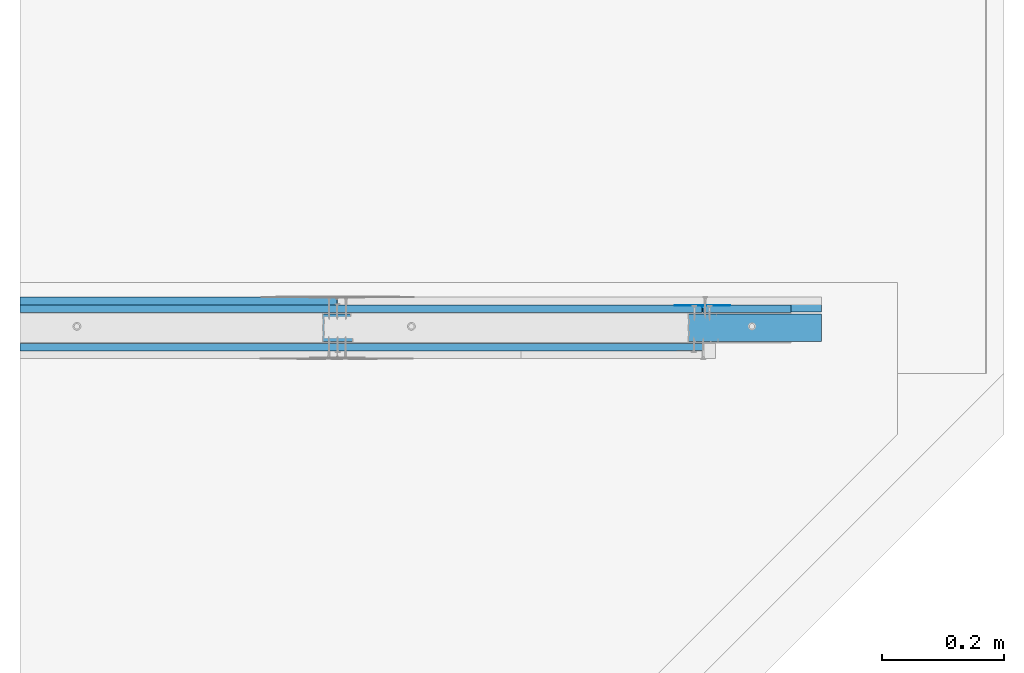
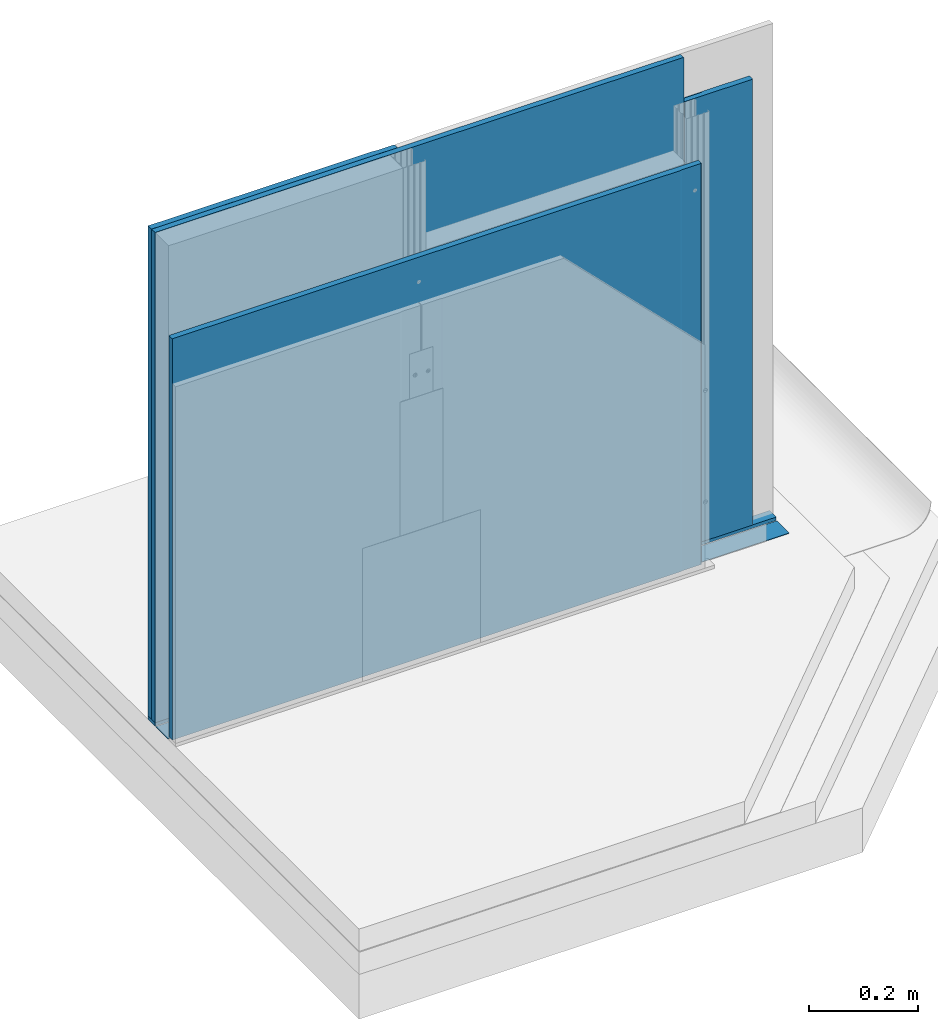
# One storey, part 2 of 36: 7 walls.
"""IFC2X3 building model written with IfcOpenShell, lengths in millimetres."""

from ifc_helpers import new_model, entity, si_unit, converted_unit, direction, frame, origin, origin_with_axes, place, context, project, spatial, faceted_brep, element, save


model = new_model("IFC2X3")

# Units and contexts
model_context = context("Model", 3, precision=1e-05, world=origin(), true_north=direction((0.0, 1.0, 0.0)))
ifc_project = project(units=[si_unit("LENGTHUNIT", "METRE", prefix="MILLI"), si_unit("AREAUNIT", "SQUARE_METRE"), si_unit("VOLUMEUNIT", "CUBIC_METRE"), converted_unit("PLANEANGLEUNIT", "DEGREE", entity("IfcPlaneAngleMeasure", 0.01745), si_unit("PLANEANGLEUNIT", "RADIAN"), dimensions=[0, 0, 0, 0, 0, 0, 0]), si_unit("SOLIDANGLEUNIT", "STERADIAN"), si_unit("MASSUNIT", "GRAM"), si_unit("TIMEUNIT", "SECOND"), si_unit("THERMODYNAMICTEMPERATUREUNIT", "DEGREE_CELSIUS"), si_unit("LUMINOUSINTENSITYUNIT", "LUMEN")], contexts=[model_context])

# Site, building, storey
site_placement = place(None, origin_with_axes())
site = spatial("IfcSite", under=ifc_project, at=site_placement, Name="Default Site", CompositionType="ELEMENT")
building_placement = place(site_placement, origin_with_axes())
building = spatial("IfcBuilding", under=site, at=building_placement, Name="Default Building", CompositionType="ELEMENT")
storey_placement = place(building_placement, origin_with_axes())
storey = spatial("IfcBuildingStorey", under=building, at=storey_placement, Name="Default Building Storey", CompositionType="ELEMENT", Elevation=0.0)

# Walls
wall_1_placement = place(storey_placement, frame((3984.303078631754, -1356.465798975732, 405.1766678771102), z_axis=(0.0, 0.0, 1.0), x_axis=(1.0, 0.0, 0.0)))
element("IfcWall", 1, at=wall_1_placement, inside=storey, Name="Dedykowana masa szpachlowa Rigips - konstrukcyjna", context=model_context, shape_type="Brep", body=[
    faceted_brep([(-737.4838396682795, 3387.669590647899, 706.8233321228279), (-737.4592163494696, 3387.356721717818, 706.8233321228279), (-737.4345930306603, 3387.669590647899, 706.8233321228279), (-737.3613293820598, 3387.974755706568, 706.8233321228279), (-737.2412293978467, 3388.264702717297, 706.8233321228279), (-737.0772503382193, 3388.532292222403, 706.8233321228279), (-736.8734299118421, 3388.770935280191, 706.8233321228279), (-736.6347868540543, 3388.974755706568, 706.8233321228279), (-736.3671973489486, 3389.138734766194, 706.8233321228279), (-736.0772503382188, 3389.258834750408, 706.8233321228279), (-735.7720852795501, 3389.332098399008, 706.8233321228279), (-735.4592163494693, 3389.356721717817, 706.8233321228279), (-692.4592163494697, 3389.356721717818, 706.8233321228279), (-691.4592163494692, 3390.556721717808, 706.8233321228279), (-782.4592163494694, 3390.556721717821, 706.8233321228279), (-782.4592163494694, 3389.356721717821, 706.8233321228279), (-739.4592163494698, 3389.356721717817, 706.8233321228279), (-739.146347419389, 3389.332098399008, 706.8233321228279), (-738.8411823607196, 3389.258834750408, 706.8233321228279), (-738.5512353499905, 3389.138734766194, 706.8233321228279), (-738.2836458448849, 3388.974755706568, 706.8233321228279), (-738.045002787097, 3388.770935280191, 706.8233321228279), (-737.8411823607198, 3388.532292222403, 706.8233321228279), (-737.6772033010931, 3388.264702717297, 706.8233321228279), (-737.5571033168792, 3387.974755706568, 706.8233321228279), (-691.4592163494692, 3390.556721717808, -293.178249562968), (-692.4592163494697, 3389.356721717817, -293.178249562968), (-735.4592163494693, 3389.356721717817, -293.178249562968), (-735.7720852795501, 3389.332098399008, -293.178249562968), (-736.0772503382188, 3389.258834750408, -293.178249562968), (-736.3671973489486, 3389.138734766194, -293.178249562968), (-736.6347868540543, 3388.974755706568, -293.178249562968), (-736.8734299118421, 3388.77093528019, -293.178249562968), (-737.0772503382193, 3388.532292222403, -293.178249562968), (-737.2412293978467, 3388.264702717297, -293.178249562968), (-737.3613293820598, 3387.974755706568, -293.178249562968), (-737.4345930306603, 3387.669590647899, -293.178249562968), (-737.4592163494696, 3387.356721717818, -293.178249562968), (-737.4838396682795, 3387.669590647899, -293.178249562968), (-737.5571033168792, 3387.974755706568, -293.178249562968), (-737.6772033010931, 3388.264702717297, -293.178249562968), (-737.8411823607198, 3388.532292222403, -293.178249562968), (-738.045002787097, 3388.77093528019, -293.178249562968), (-738.2836458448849, 3388.974755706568, -293.178249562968), (-738.5512353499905, 3389.138734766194, -293.178249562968), (-738.8411823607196, 3389.258834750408, -293.178249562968), (-739.146347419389, 3389.332098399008, -293.178249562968), (-739.4592163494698, 3389.356721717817, -293.178249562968), (-782.4592163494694, 3389.356721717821, -293.178249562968), (-782.4592163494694, 3390.556721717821, -293.178249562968)], [[[0, 1, 2, 3, 4, 5, 6, 7, 8, 9, 10, 11, 12, 13, 14, 15, 16, 17, 18, 19, 20, 21, 22, 23, 24]], [[25, 26, 27, 28, 29, 30, 31, 32, 33, 34, 35, 36, 37, 38, 39, 40, 41, 42, 43, 44, 45, 46, 47, 48, 49]], [[26, 12, 11, 27]], [[10, 9, 29, 28]], [[28, 27, 11, 10]], [[8, 30, 29, 9]], [[7, 6, 32, 31]], [[31, 30, 8, 7]], [[5, 4, 34, 33]], [[33, 32, 6, 5]], [[3, 35, 34, 4]], [[2, 1, 37, 36]], [[36, 35, 3, 2]], [[0, 24, 39, 38]], [[38, 37, 1, 0]], [[23, 40, 39, 24]], [[22, 21, 42, 41]], [[41, 40, 23, 22]], [[20, 19, 44, 43]], [[43, 42, 21, 20]], [[18, 45, 44, 19]], [[17, 16, 47, 46]], [[46, 45, 18, 17]], [[47, 16, 15, 48]], [[48, 15, 14, 49]], [[49, 14, 13, 25]], [[25, 13, 12, 26]]]),
])
wall_2_placement = place(storey_placement, frame((3247.843862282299, 2022.140922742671, 1389.777728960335), z_axis=(0.0, 0.0, 1.0), x_axis=(1.0, 0.0, 0.0)))
element("IfcWall", 2, at=wall_2_placement, inside=storey, Name="Płyta gipsowo-kartonowa RIGIPS PRO (4PRO™)", context=model_context, shape_type="Brep", body=[
    faceted_brep([(145.1967559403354, 12.49999999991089, -277.7777289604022), (145.1967559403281, -9.059988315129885e-11, -277.7777289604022), (145.1967559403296, -9.023892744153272e-11, -1277.779310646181), (145.1967559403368, 12.49999999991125, -1277.779310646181), (0.0, 0.0, -277.7777289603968), (44.99999999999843, 12.50000000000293, -277.7777289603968), (40.99999999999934, 11.50000000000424, -277.7777289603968), (0.9999999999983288, 11.5000000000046, -277.7777289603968), (0.7411809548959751, 11.46592582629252, -277.7777289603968), (0.4999999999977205, 11.3660254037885, -277.7777289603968), (0.2928932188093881, 11.20710678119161, -277.7777289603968), (0.1339745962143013, 11.00000000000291, -277.7777289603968), (0.03407417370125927, 10.7588190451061, -277.7777289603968), (-2.887645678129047e-12, 10.50000000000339, -277.7777289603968), (44.99999999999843, 12.50000000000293, -1277.779310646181), (40.99999999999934, 11.50000000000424, -1277.779310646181), (0.9999999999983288, 11.5000000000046, -1277.779310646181), (0.7411809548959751, 11.46592582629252, -1277.779310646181), (0.4999999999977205, 11.3660254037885, -1277.779310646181), (0.2928932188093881, 11.20710678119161, -1277.779310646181), (0.1339745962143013, 11.00000000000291, -1277.779310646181), (0.03407417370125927, 10.7588190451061, -1277.779310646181), (-2.887645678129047e-12, 10.50000000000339, -1277.779310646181), (0.0, 0.0, -1277.779310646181)], [[[0, 1, 2, 3]], [[4, 1, 0, 5, 6, 7, 8, 9, 10, 11, 12, 13]], [[0, 3, 14, 5]], [[6, 5, 14, 15]], [[7, 6, 15, 16]], [[8, 7, 16, 17]], [[9, 8, 17, 18]], [[10, 9, 18, 19]], [[11, 10, 19, 20]], [[12, 11, 20, 21]], [[13, 12, 21, 22]], [[4, 13, 22, 23]], [[23, 2, 1, 4]], [[14, 3, 2, 23, 22, 21, 20, 19, 18, 17, 16, 15]]]),
])
wall_3_placement = place(storey_placement, frame((3247.741854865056, 5452.424146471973, 110.3903952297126), z_axis=(6.44634805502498e-14, -6.858158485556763e-13, 1.0), x_axis=(1.0, -1.14833748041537e-16, -9.007748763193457e-14)))
element("IfcWall", 3, at=wall_3_placement, inside=storey, Name="Taśma uszczelniająca piankowa RIGIPS", context=model_context, shape_type="Brep", body=[
    faceted_brep([(-1122.716721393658, -3477.783223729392, -5.000000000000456), (-1122.716721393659, -3477.862841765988, -6.00636944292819), (-1122.716721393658, -3432.691889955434, -5.864971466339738), (-1122.716721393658, -3432.783223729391, -5.000000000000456), (195.2987633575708, -3477.862841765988, -6.006369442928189), (195.2987633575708, -3477.783223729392, -5.000000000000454), (195.2987633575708, -3432.783223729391, -5.000000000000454), (195.2987633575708, -3432.691889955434, -5.864971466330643)], [[[0, 1, 2, 3]], [[4, 5, 6, 7]], [[5, 0, 3, 6]], [[6, 3, 2, 7]], [[7, 2, 1, 4]], [[4, 1, 0, 5]]]),
])
wall_4_placement = place(storey_placement, frame((3246.843862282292, 2022.140922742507, 1517.555457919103), z_axis=(0.0, 0.0, 1.0), x_axis=(-1.0, -8.049116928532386e-16, 0.0)))
element("IfcWall", 4, at=wall_4_placement, inside=storey, Name="Płyta gipsowo-kartonowa RIGIPS PRO (4PRO™)", context=model_context, shape_type="Brep", body=[
    faceted_brep([(1121.818728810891, -12.50000000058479, -305.5554579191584), (1121.818728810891, 3.609557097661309e-13, -305.5554579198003), (1121.818728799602, -3.495134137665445e-09, -1405.557039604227), (1121.818728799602, -12.50000000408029, -1405.557039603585), (44.99999999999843, -12.50000000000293, -305.5554579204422), (44.99999999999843, -12.50000000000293, -1405.557039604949), (40.99999999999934, -11.50000000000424, -305.5554579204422), (40.99999999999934, -11.50000000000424, -1405.557039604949), (0.9999999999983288, -11.5000000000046, -305.5554579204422), (0.9999999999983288, -11.5000000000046, -1405.557039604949), (0.7411809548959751, -11.46592582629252, -305.5554579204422), (0.7411809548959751, -11.46592582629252, -1405.557039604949), (0.4999999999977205, -11.3660254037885, -305.5554579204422), (0.4999999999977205, -11.3660254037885, -1405.557039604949), (0.29289321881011, -11.20710678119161, -305.5554579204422), (0.29289321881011, -11.20710678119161, -1405.557039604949), (0.1339745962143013, -11.00000000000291, -305.5554579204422), (0.1339745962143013, -11.00000000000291, -1405.557039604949), (0.03407417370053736, -10.7588190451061, -305.5554579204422), (0.03407417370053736, -10.7588190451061, -1405.557039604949), (-2.887645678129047e-12, -10.50000000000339, -305.5554579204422), (-2.887645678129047e-12, -10.50000000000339, -1405.557039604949), (0.0, 0.0, -305.5554579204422), (0.0, 0.0, -1405.557039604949)], [[[0, 1, 2, 3]], [[4, 0, 3, 5]], [[6, 4, 5, 7]], [[8, 6, 7, 9]], [[10, 8, 9, 11]], [[12, 10, 11, 13]], [[14, 12, 13, 15]], [[16, 14, 15, 17]], [[18, 16, 17, 19]], [[20, 18, 19, 21]], [[22, 20, 21, 23]], [[1, 22, 23, 2]], [[2, 23, 21, 19, 17, 15, 13, 11, 9, 7, 5, 3]], [[0, 4, 6, 8, 10, 12, 14, 16, 18, 20, 22, 1]]]),
])
wall_5_placement = place(storey_placement, frame((3443.040618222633, 2022.494753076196, 104.3840257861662), z_axis=(0.0, 0.0, 1.0), x_axis=(1.0, 0.0, 0.0)))
element("IfcWall", 5, at=wall_5_placement, inside=storey, Name="Dedykowana masa szpachlowa Rigips - konstrukcyjna", context=model_context, shape_type="Brep", body=[
    faceted_brep([(0.0, 24.6461696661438, 0.0), (0.0, 0.0, 0.0), (-1318.015484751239, 0.0, 0.0), (-1318.015484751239, 24.6461696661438, 0.0), (0.0, 0.0, 7.614392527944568), (-1318.015484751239, 0.0, 7.614392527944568), (0.0, 24.6461696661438, 7.614392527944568), (-1318.015484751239, 24.6461696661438, 7.614392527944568)], [[[0, 1, 2, 3]], [[1, 4, 5, 2]], [[4, 6, 7, 5]], [[6, 0, 3, 7]], [[7, 3, 2, 5]], [[0, 6, 4, 1]]]),
])
wall_6_placement = place(storey_placement, frame((2646.429648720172, 2034.640922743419, 1161.999999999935), z_axis=(0.0, 0.0, 1.0), x_axis=(-1.0, 0.0, 0.0)))
element("IfcWall", 6, at=wall_6_placement, inside=storey, Name="Płyta gipsowo-kartonowa RIGIPS PRO (4PRO™)", context=model_context, shape_type="Brep", body=[
    faceted_brep([(521.4045152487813, -12.4999999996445, 50.00000000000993), (521.4045152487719, 3.277477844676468e-10, 50.00000000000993), (521.404515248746, 3.241382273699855e-10, -1050.001581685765), (521.4045152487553, -12.49999999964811, -1050.001581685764), (44.99999999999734, -12.50000000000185, 50.00000000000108), (40.99999999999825, -11.50000000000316, 50.00000000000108), (0.9999999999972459, -11.50000000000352, 50.00000000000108), (0.7411809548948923, -11.46592582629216, 50.00000000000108), (0.4999999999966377, -11.36602540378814, 50.00000000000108), (0.2928932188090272, -11.20710678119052, 50.00000000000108), (0.1339745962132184, -11.00000000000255, 50.00000000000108), (0.0340741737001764, -10.75881904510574, 50.00000000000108), (-3.248601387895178e-12, -10.50000000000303, 50.00000000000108), (-1.082867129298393e-12, 3.609557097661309e-13, 50.00000000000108), (44.99999999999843, -12.50000000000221, -1050.001581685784), (40.99999999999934, -11.50000000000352, -1050.001581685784), (0.9999999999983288, -11.50000000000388, -1050.001581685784), (0.7411809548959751, -11.46592582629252, -1050.001581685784), (0.4999999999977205, -11.3660254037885, -1050.001581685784), (0.29289321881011, -11.20710678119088, -1050.001581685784), (0.1339745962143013, -11.00000000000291, -1050.001581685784), (0.03407417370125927, -10.7588190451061, -1050.001581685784), (-2.165734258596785e-12, -10.50000000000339, -1050.001581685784), (0.0, 0.0, -1050.001581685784)], [[[0, 1, 2, 3]], [[0, 4, 5, 6, 7, 8, 9, 10, 11, 12, 13, 1]], [[3, 14, 4, 0]], [[5, 4, 14, 15]], [[6, 5, 15, 16]], [[7, 6, 16, 17]], [[8, 7, 17, 18]], [[9, 8, 18, 19]], [[10, 9, 19, 20]], [[11, 10, 20, 21]], [[12, 11, 21, 22]], [[13, 12, 22, 23]], [[2, 1, 13, 23]], [[14, 3, 2, 23, 22, 21, 20, 19, 18, 17, 16, 15]]]),
])
wall_7_placement = place(storey_placement, frame((2048.4296487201, 1971.180077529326, 1261.999999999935), z_axis=(0.0, 0.0, 1.0), x_axis=(1.0, 0.0, 0.0)))
element("IfcWall", 7, at=wall_7_placement, inside=storey, Name="Płyta gipsowo-kartonowa RIGIPS PRO (4PRO™)", context=model_context, shape_type="Brep", body=[
    faceted_brep([(76.59548475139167, 0.0, -249.9999999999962), (76.59548475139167, -12.50000000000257, -249.9999999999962), (76.59548475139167, -12.50000000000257, -1150.001581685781), (76.59548475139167, 0.0, -1150.001581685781), (1200.0, 0.0, -249.9999999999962), (1200.000000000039, -10.49999999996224, -249.9999999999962), (1199.965925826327, -10.75881904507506, -249.9999999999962), (1199.866025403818, -10.99999999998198, -249.9999999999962), (1199.707106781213, -11.20710678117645, -249.9999999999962), (1199.50000000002, -11.36602540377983, -249.9999999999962), (1199.258819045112, -11.46592582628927, -249.9999999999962), (1199.0, -11.50000000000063, -249.9999999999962), (1158.999999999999, -11.50000000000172, -249.9999999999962), (1155.000000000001, -12.49999999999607, -249.9999999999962), (1199.965925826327, -10.75881904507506, -1150.001581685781), (1199.866025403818, -10.99999999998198, -1150.001581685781), (1199.707106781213, -11.20710678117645, -1150.001581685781), (1199.50000000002, -11.36602540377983, -1150.001581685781), (1199.258819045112, -11.46592582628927, -1150.001581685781), (1199.0, -11.50000000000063, -1150.001581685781), (1158.999999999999, -11.50000000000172, -1150.001581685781), (1155.000000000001, -12.49999999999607, -1150.001581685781), (1200.0, 0.0, -1150.001581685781), (1200.000000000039, -10.49999999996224, -1150.001581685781)], [[[0, 1, 2, 3]], [[0, 4, 5, 6, 7, 8, 9, 10, 11, 12, 13, 1]], [[7, 6, 14, 15]], [[8, 7, 15, 16]], [[9, 8, 16, 17]], [[10, 9, 17, 18]], [[11, 10, 18, 19]], [[12, 11, 19, 20]], [[13, 12, 20, 21]], [[2, 1, 13, 21]], [[3, 22, 4, 0]], [[5, 4, 22, 23]], [[6, 5, 23, 14]], [[14, 23, 22, 3, 2, 21, 20, 19, 18, 17, 16, 15]]]),
])

save(model, "model.ifc")
